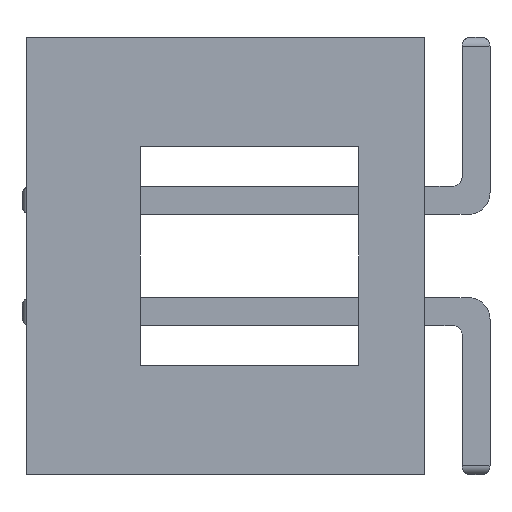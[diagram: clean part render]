
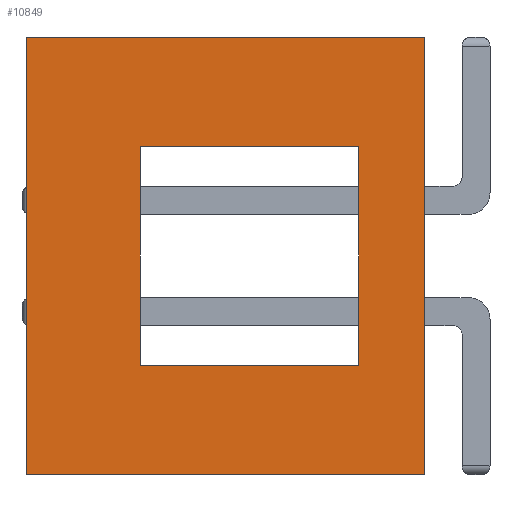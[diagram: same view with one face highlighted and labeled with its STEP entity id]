
A CAD part, left-side view. The second image highlights one B-rep face of the part: STEP entity #10849.
In plain terms, the highlighted planar face has unit normal (-1, 0, 0).
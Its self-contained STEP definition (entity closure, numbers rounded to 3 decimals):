
#283 = LINE ( 'NONE', #8523, #11238 ) ;
#395 = CARTESIAN_POINT ( 'NONE',  ( -12.72, -4.55, 0. ) ) ;
#462 = LINE ( 'NONE', #7992, #12508 ) ;
#712 = CARTESIAN_POINT ( 'NONE',  ( -12.72, -3.05, 7.5 ) ) ;
#819 = DIRECTION ( 'NONE',  ( 0., -1., 0. ) ) ;
#887 = VERTEX_POINT ( 'NONE', #11090 ) ;
#949 = ORIENTED_EDGE ( 'NONE', *, *, #8061, .F. ) ;
#1203 = DIRECTION ( 'NONE',  ( 0., -1., 0. ) ) ;
#1352 = VECTOR ( 'NONE', #5873, 1000. ) ;
#1809 = VECTOR ( 'NONE', #2100, 1000. ) ;
#2100 = DIRECTION ( 'NONE',  ( 0., 0., -1. ) ) ;
#2279 = DIRECTION ( 'NONE',  ( 0., 1., 0. ) ) ;
#2389 = VERTEX_POINT ( 'NONE', #395 ) ;
#2560 = VECTOR ( 'NONE', #8163, 1000. ) ;
#2644 = VERTEX_POINT ( 'NONE', #14116 ) ;
#2656 = CARTESIAN_POINT ( 'NONE',  ( -12.72, 1.95, 2.5 ) ) ;
#2673 = FACE_BOUND ( 'NONE', #12846, .T. ) ;
#2945 = EDGE_CURVE ( 'NONE', #12748, #9280, #13481, .T. ) ;
#3034 = EDGE_CURVE ( 'NONE', #2644, #887, #283, .T. ) ;
#3116 = VECTOR ( 'NONE', #3535, 1000. ) ;
#3261 = LINE ( 'NONE', #8983, #1809 ) ;
#3335 = EDGE_CURVE ( 'NONE', #11636, #6368, #11210, .T. ) ;
#3535 = DIRECTION ( 'NONE',  ( 0., 0., -1. ) ) ;
#3623 = CARTESIAN_POINT ( 'NONE',  ( -12.72, -4.55, 0. ) ) ;
#3717 = ORIENTED_EDGE ( 'NONE', *, *, #3034, .F. ) ;
#3931 = ORIENTED_EDGE ( 'NONE', *, *, #3335, .F. ) ;
#4260 = VECTOR ( 'NONE', #819, 1000. ) ;
#5219 = AXIS2_PLACEMENT_3D ( 'NONE', #8833, #7152, #12629 ) ;
#5318 = VERTEX_POINT ( 'NONE', #12695 ) ;
#5552 = LINE ( 'NONE', #12916, #10722 ) ;
#5693 = ORIENTED_EDGE ( 'NONE', *, *, #7637, .T. ) ;
#5873 = DIRECTION ( 'NONE',  ( 0., 0., 1. ) ) ;
#6368 = VERTEX_POINT ( 'NONE', #2656 ) ;
#6889 = PLANE ( 'NONE',  #5219 ) ;
#7152 = DIRECTION ( 'NONE',  ( 1., 0., 0. ) ) ;
#7637 = EDGE_CURVE ( 'NONE', #5318, #2389, #11289, .T. ) ;
#7992 = CARTESIAN_POINT ( 'NONE',  ( -12.72, -4.55, 10. ) ) ;
#8061 = EDGE_CURVE ( 'NONE', #9280, #11636, #5552, .T. ) ;
#8102 = FACE_OUTER_BOUND ( 'NONE', #8350, .T. ) ;
#8163 = DIRECTION ( 'NONE',  ( 0., -1., 0. ) ) ;
#8350 = EDGE_LOOP ( 'NONE', ( #5693, #11156, #3717, #14123 ) ) ;
#8523 = CARTESIAN_POINT ( 'NONE',  ( -12.72, -4.55, 10. ) ) ;
#8833 = CARTESIAN_POINT ( 'NONE',  ( -12.72, -4.55, 10. ) ) ;
#8983 = CARTESIAN_POINT ( 'NONE',  ( -12.72, 4.55, 10. ) ) ;
#9280 = VERTEX_POINT ( 'NONE', #13426 ) ;
#9755 = CARTESIAN_POINT ( 'NONE',  ( -12.72, 1.95, 7.5 ) ) ;
#10722 = VECTOR ( 'NONE', #2279, 1000. ) ;
#10849 = ADVANCED_FACE ( 'NONE', ( #2673, #8102 ), #6889, .F. ) ;
#11025 = CARTESIAN_POINT ( 'NONE',  ( -12.72, -3.05, 2.5 ) ) ;
#11036 = EDGE_CURVE ( 'NONE', #6368, #12748, #13336, .T. ) ;
#11079 = CARTESIAN_POINT ( 'NONE',  ( -12.72, -3.05, 2.5 ) ) ;
#11090 = CARTESIAN_POINT ( 'NONE',  ( -12.72, -4.55, 10. ) ) ;
#11156 = ORIENTED_EDGE ( 'NONE', *, *, #13133, .F. ) ;
#11210 = LINE ( 'NONE', #14474, #3116 ) ;
#11238 = VECTOR ( 'NONE', #1203, 1000. ) ;
#11289 = LINE ( 'NONE', #3623, #2560 ) ;
#11428 = ORIENTED_EDGE ( 'NONE', *, *, #11036, .F. ) ;
#11636 = VERTEX_POINT ( 'NONE', #9755 ) ;
#12508 = VECTOR ( 'NONE', #13434, 1000. ) ;
#12629 = DIRECTION ( 'NONE',  ( 0., 0., -1. ) ) ;
#12695 = CARTESIAN_POINT ( 'NONE',  ( -12.72, 4.55, 0. ) ) ;
#12748 = VERTEX_POINT ( 'NONE', #11079 ) ;
#12830 = ORIENTED_EDGE ( 'NONE', *, *, #2945, .F. ) ;
#12846 = EDGE_LOOP ( 'NONE', ( #12830, #11428, #3931, #949 ) ) ;
#12916 = CARTESIAN_POINT ( 'NONE',  ( -12.72, -3.05, 7.5 ) ) ;
#13133 = EDGE_CURVE ( 'NONE', #887, #2389, #462, .T. ) ;
#13170 = EDGE_CURVE ( 'NONE', #2644, #5318, #3261, .T. ) ;
#13336 = LINE ( 'NONE', #11025, #4260 ) ;
#13426 = CARTESIAN_POINT ( 'NONE',  ( -12.72, -3.05, 7.5 ) ) ;
#13434 = DIRECTION ( 'NONE',  ( 0., 0., -1. ) ) ;
#13481 = LINE ( 'NONE', #712, #1352 ) ;
#14116 = CARTESIAN_POINT ( 'NONE',  ( -12.72, 4.55, 10. ) ) ;
#14123 = ORIENTED_EDGE ( 'NONE', *, *, #13170, .T. ) ;
#14474 = CARTESIAN_POINT ( 'NONE',  ( -12.72, 1.95, 7.5 ) ) ;
